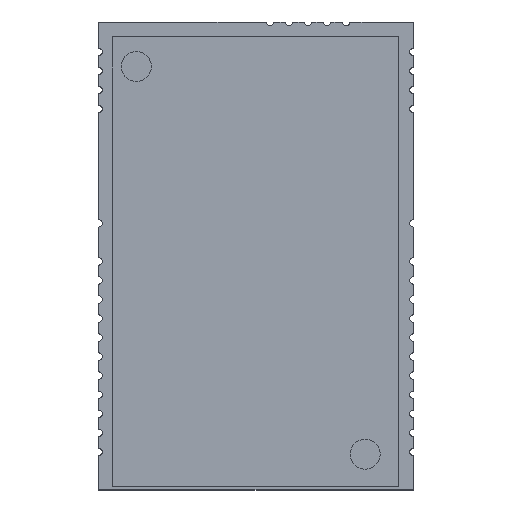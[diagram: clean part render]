
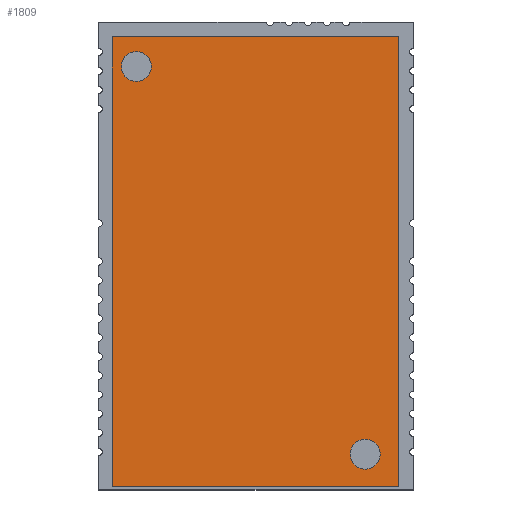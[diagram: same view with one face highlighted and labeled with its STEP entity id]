
A CAD part, top view. The second image highlights one B-rep face of the part: STEP entity #1809.
In plain terms, the highlighted planar face has unit normal (0, 0, 1).
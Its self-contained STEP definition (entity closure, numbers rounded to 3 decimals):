
#13=FACE_BOUND('',#247,.T.);
#14=FACE_BOUND('',#248,.T.);
#66=PLANE('',#1992);
#156=FACE_OUTER_BOUND('',#246,.T.);
#246=EDGE_LOOP('',(#1590,#1591,#1592,#1593));
#247=EDGE_LOOP('',(#1594));
#248=EDGE_LOOP('',(#1595));
#414=LINE('',#2998,#588);
#417=LINE('',#3004,#591);
#420=LINE('',#3010,#594);
#423=LINE('',#3014,#597);
#588=VECTOR('',#2486,10.);
#591=VECTOR('',#2491,10.);
#594=VECTOR('',#2496,10.);
#597=VECTOR('',#2501,10.);
#672=CIRCLE('',#1981,1.);
#674=CIRCLE('',#1985,1.);
#832=VERTEX_POINT('',#2978);
#834=VERTEX_POINT('',#2985);
#838=VERTEX_POINT('',#2995);
#839=VERTEX_POINT('',#2997);
#841=VERTEX_POINT('',#3003);
#843=VERTEX_POINT('',#3009);
#1078=EDGE_CURVE('',#832,#832,#672,.T.);
#1081=EDGE_CURVE('',#834,#834,#674,.T.);
#1086=EDGE_CURVE('',#839,#838,#414,.T.);
#1089=EDGE_CURVE('',#841,#839,#417,.T.);
#1092=EDGE_CURVE('',#843,#841,#420,.T.);
#1095=EDGE_CURVE('',#838,#843,#423,.T.);
#1590=ORIENTED_EDGE('',*,*,#1095,.T.);
#1591=ORIENTED_EDGE('',*,*,#1092,.T.);
#1592=ORIENTED_EDGE('',*,*,#1089,.T.);
#1593=ORIENTED_EDGE('',*,*,#1086,.T.);
#1594=ORIENTED_EDGE('',*,*,#1078,.T.);
#1595=ORIENTED_EDGE('',*,*,#1081,.T.);
#1809=ADVANCED_FACE('',(#156,#13,#14),#66,.T.);
#1981=AXIS2_PLACEMENT_3D('',#2979,#2466,#2467);
#1985=AXIS2_PLACEMENT_3D('',#2986,#2475,#2476);
#1992=AXIS2_PLACEMENT_3D('',#3015,#2502,#2503);
#2466=DIRECTION('center_axis',(0.,0.,-1.));
#2467=DIRECTION('ref_axis',(1.,0.,0.));
#2475=DIRECTION('center_axis',(0.,0.,-1.));
#2476=DIRECTION('ref_axis',(1.,0.,0.));
#2486=DIRECTION('',(-1.,0.,0.));
#2491=DIRECTION('',(0.,1.,0.));
#2496=DIRECTION('',(1.,0.,0.));
#2501=DIRECTION('',(0.,-1.,0.));
#2502=DIRECTION('center_axis',(0.,0.,1.));
#2503=DIRECTION('ref_axis',(1.,0.,0.));
#2978=CARTESIAN_POINT('',(16.778,2.381,3.5));
#2979=CARTESIAN_POINT('Origin',(17.778,2.381,3.5));
#2985=CARTESIAN_POINT('',(1.526,28.229,3.5));
#2986=CARTESIAN_POINT('Origin',(2.526,28.229,3.5));
#2995=CARTESIAN_POINT('',(0.9,30.2,3.5));
#2997=CARTESIAN_POINT('',(20.,30.2,3.5));
#2998=CARTESIAN_POINT('',(20.,30.2,3.5));
#3003=CARTESIAN_POINT('',(20.,0.2,3.5));
#3004=CARTESIAN_POINT('',(20.,0.2,3.5));
#3009=CARTESIAN_POINT('',(0.9,0.2,3.5));
#3010=CARTESIAN_POINT('',(0.9,0.2,3.5));
#3014=CARTESIAN_POINT('',(0.9,30.2,3.5));
#3015=CARTESIAN_POINT('Origin',(10.45,15.2,3.5));
